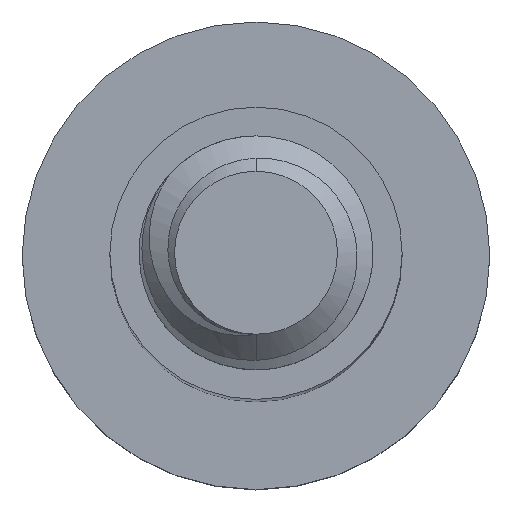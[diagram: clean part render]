
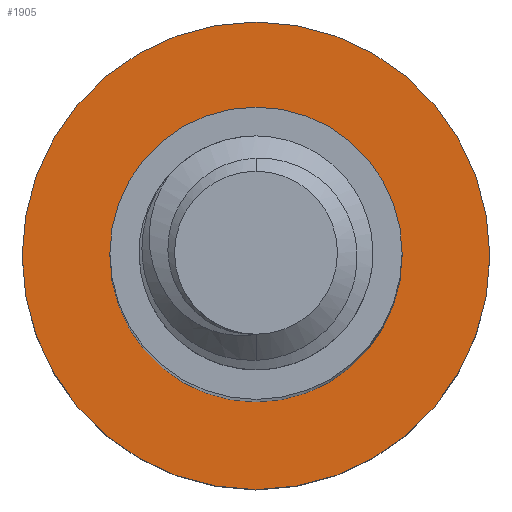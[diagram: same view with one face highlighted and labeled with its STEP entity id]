
A CAD part, top view. The second image highlights one B-rep face of the part: STEP entity #1905.
In plain terms, the highlighted planar face has unit normal (0, 0, 1).
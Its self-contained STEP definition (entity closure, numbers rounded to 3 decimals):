
#44 = CARTESIAN_POINT ( 'NONE',  ( -2.5, 0., -25. ) ) ;
#107 = AXIS2_PLACEMENT_3D ( 'NONE', #140, #816, #150 ) ;
#138 = EDGE_CURVE ( 'NONE', #1090, #1344, #1604, .T. ) ;
#140 = CARTESIAN_POINT ( 'NONE',  ( 0., 0., -25. ) ) ;
#150 = DIRECTION ( 'NONE',  ( -1., 0., 0. ) ) ;
#228 = DIRECTION ( 'NONE',  ( -1., 0., 0. ) ) ;
#300 = CARTESIAN_POINT ( 'NONE',  ( 2.5, 0., -25. ) ) ;
#337 = EDGE_CURVE ( 'NONE', #1731, #1556, #1866, .T. ) ;
#459 = CARTESIAN_POINT ( 'NONE',  ( 4., 0., -25. ) ) ;
#477 = CARTESIAN_POINT ( 'NONE',  ( -4., 0., -25. ) ) ;
#549 = DIRECTION ( 'NONE',  ( -1., 0., 0. ) ) ;
#584 = ORIENTED_EDGE ( 'NONE', *, *, #971, .T. ) ;
#601 = AXIS2_PLACEMENT_3D ( 'NONE', #1203, #1411, #228 ) ;
#632 = CIRCLE ( 'NONE', #107, 2.5 ) ;
#714 = CARTESIAN_POINT ( 'NONE',  ( 0., 0., -25. ) ) ;
#816 = DIRECTION ( 'NONE',  ( 0., 0., -1. ) ) ;
#880 = PLANE ( 'NONE',  #1408 ) ;
#919 = AXIS2_PLACEMENT_3D ( 'NONE', #1023, #1340, #2048 ) ;
#971 = EDGE_CURVE ( 'NONE', #1344, #1090, #632, .T. ) ;
#1023 = CARTESIAN_POINT ( 'NONE',  ( 0., 0., -25. ) ) ;
#1054 = ORIENTED_EDGE ( 'NONE', *, *, #1316, .F. ) ;
#1090 = VERTEX_POINT ( 'NONE', #300 ) ;
#1102 = DIRECTION ( 'NONE',  ( -1., 0., 0. ) ) ;
#1171 = EDGE_LOOP ( 'NONE', ( #1054, #1575 ) ) ;
#1203 = CARTESIAN_POINT ( 'NONE',  ( 0., 0., -25. ) ) ;
#1264 = AXIS2_PLACEMENT_3D ( 'NONE', #1587, #1446, #1102 ) ;
#1316 = EDGE_CURVE ( 'NONE', #1556, #1731, #2139, .T. ) ;
#1318 = ORIENTED_EDGE ( 'NONE', *, *, #138, .T. ) ;
#1340 = DIRECTION ( 'NONE',  ( 0., 0., -1. ) ) ;
#1344 = VERTEX_POINT ( 'NONE', #44 ) ;
#1350 = FACE_OUTER_BOUND ( 'NONE', #1171, .T. ) ;
#1408 = AXIS2_PLACEMENT_3D ( 'NONE', #714, #2047, #549 ) ;
#1411 = DIRECTION ( 'NONE',  ( 0., 0., -1. ) ) ;
#1446 = DIRECTION ( 'NONE',  ( 0., 0., -1. ) ) ;
#1459 = EDGE_LOOP ( 'NONE', ( #584, #1318 ) ) ;
#1556 = VERTEX_POINT ( 'NONE', #459 ) ;
#1575 = ORIENTED_EDGE ( 'NONE', *, *, #337, .F. ) ;
#1587 = CARTESIAN_POINT ( 'NONE',  ( 0., 0., -25. ) ) ;
#1604 = CIRCLE ( 'NONE', #1264, 2.5 ) ;
#1731 = VERTEX_POINT ( 'NONE', #477 ) ;
#1855 = FACE_BOUND ( 'NONE', #1459, .T. ) ;
#1866 = CIRCLE ( 'NONE', #919, 4. ) ;
#1905 = ADVANCED_FACE ( 'NONE', ( #1855, #1350 ), #880, .F. ) ;
#2047 = DIRECTION ( 'NONE',  ( 0., 0., -1. ) ) ;
#2048 = DIRECTION ( 'NONE',  ( -1., 0., 0. ) ) ;
#2139 = CIRCLE ( 'NONE', #601, 4. ) ;
